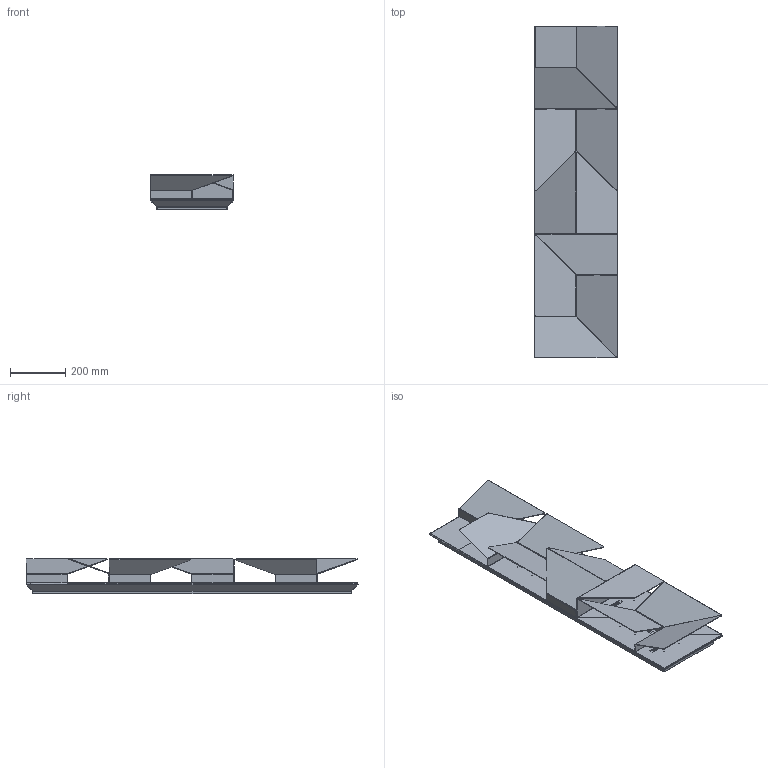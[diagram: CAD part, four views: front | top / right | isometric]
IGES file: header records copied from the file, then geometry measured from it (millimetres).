
Start section: SolidWorks IGES file using analytic representation for surfaces
Global section: file name: C:\Users\tungari.NEMOLIGHTING\Desktop\3D\WALL\3D_WALL_SHADOW_LONGGGG\def\3D_WALL_SHADOW_LONG.IGS; native system: SolidWorks 2016; preprocessor: SolidWorks 2016; author: tungari; date: 180315.095647; units: millimetre
Bounding box: 299.76 x 1198.76 x 128.06 mm (x, y, z)
Surface area: 2501925.3 mm2 (no closed solid volume)
Topology: 0 solids, 0 shells, 1135 faces, 8264 edges, 8264 vertices
Faces by surface type: bspline 972, revolution 163
